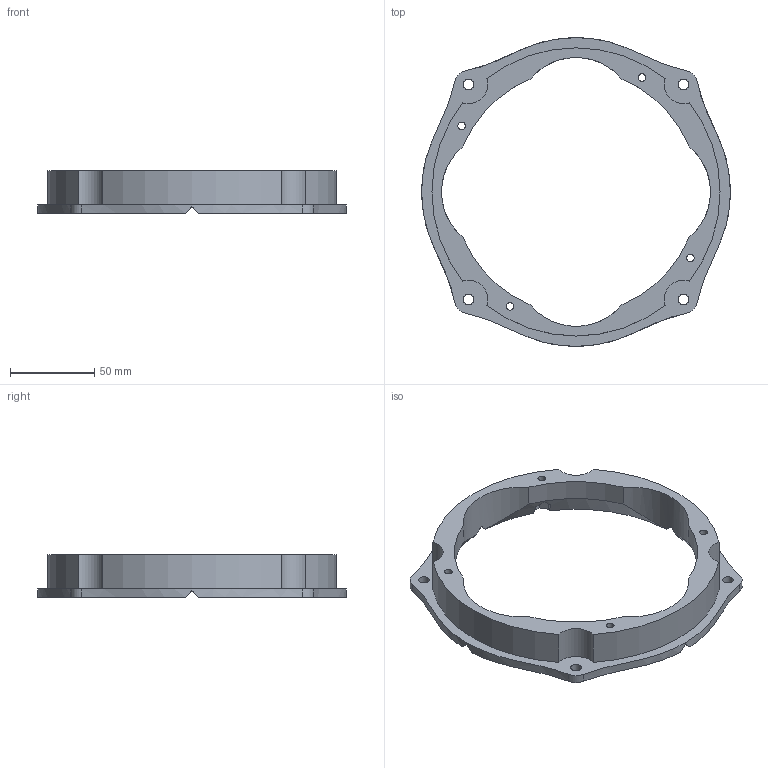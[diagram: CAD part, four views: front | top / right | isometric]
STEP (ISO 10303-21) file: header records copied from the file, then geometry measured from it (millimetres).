
FILE_DESCRIPTION(/* description */ (''),/* implementation_level */ '2;1');
FILE_NAME(/* name */ 'speaker bracket v17 v2.step',/* time_stamp */ '2022-11-18T12:38:18-08:00',/* author */ (''),/* organization */ (''),/* preprocessor_version */ 'ST-DEVELOPER v19.2',/* originating_system */ 'Autodesk Translation Framework v11.17.0.187',/* authorisation */ '');
FILE_SCHEMA (('AUTOMOTIVE_DESIGN { 1 0 10303 214 3 1 1 }'));
Length unit declared in the file: inch
Products named in the file (1): speaker bracket v17
Bounding box: 183.68 x 183.68 x 25.4 mm (x, y, z)
Volume: 127781.2 mm3; surface area: 45216.7 mm2
Topology: 1 solids, 1 shells, 86 faces, 252 edges, 168 vertices
Faces by surface type: plane 42, cylinder 32, bspline 8, cone 4
Full cylindrical faces by diameter (mm): 4.572 x4, 6.35 x4
Entity records: 3246 total; most frequent: CARTESIAN_POINT 963, ORIENTED_EDGE 504, DIRECTION 426, EDGE_CURVE 252, VERTEX_POINT 168, AXIS2_PLACEMENT_3D 155, LINE 116, VECTOR 116
